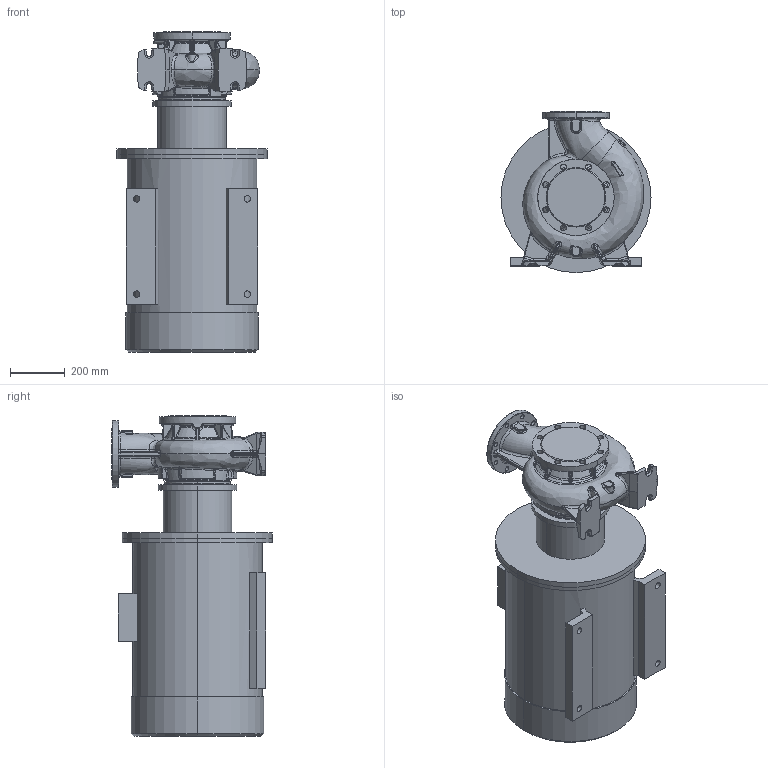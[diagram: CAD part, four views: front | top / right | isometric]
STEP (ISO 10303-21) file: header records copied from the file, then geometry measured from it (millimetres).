
FILE_DESCRIPTION (( 'STEP AP214' ), '1' );
FILE_NAME ('KRM 150-125-200-2-55.STEP', '2026-04-20T06:40:15', ( '' ), ( '' ), 'SwSTEP 2.0', 'SolidWorks 2016', '' );
FILE_SCHEMA (( 'AUTOMOTIVE_DESIGN' ));
Length unit declared in the file: millimetre
Products named in the file (1): KRM 150-125-200-2-55
Bounding box: 550 x 590 x 1174.5 mm (x, y, z)
Volume: 175969536.4 mm3; surface area: 3583232.4 mm2
Topology: 4 solids, 4 shells, 1150 faces, 2793 edges, 1653 vertices
Faces by surface type: bspline 499, cylinder 265, plane 175, torus 93, cone 67, sphere 51
Entity records: 77583 total; most frequent: CARTESIAN_POINT 41682, ORIENTED_EDGE 5550, DIRECTION 4029, EDGE_CURVE 2775, AXIS2_PLACEMENT_3D 1739, VERTEX_POINT 1653, EDGE_LOOP 1210, UNCERTAINTY_MEASURE_WITH_UNIT 1156
